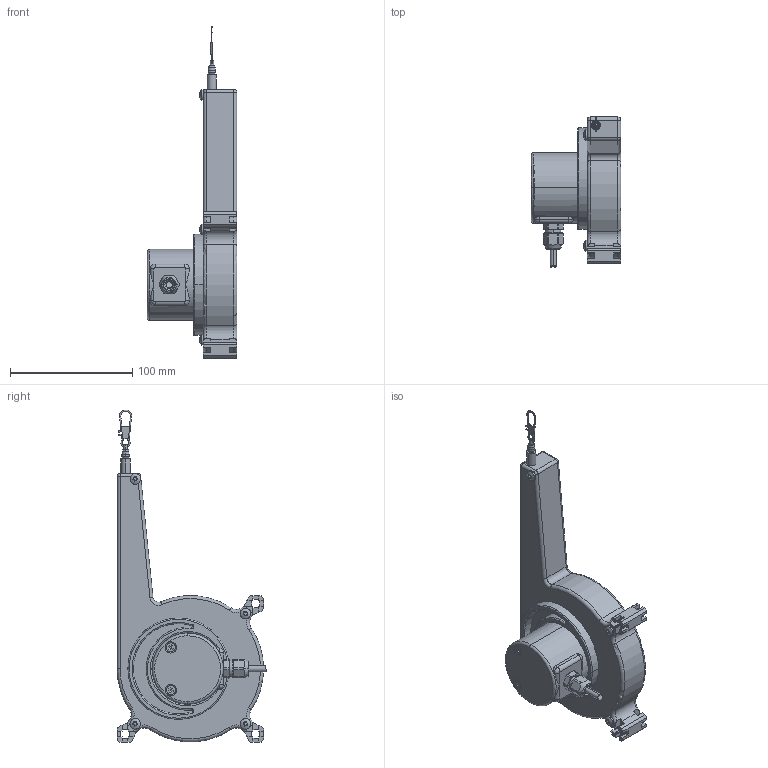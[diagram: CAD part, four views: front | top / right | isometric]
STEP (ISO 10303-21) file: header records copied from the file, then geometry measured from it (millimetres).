
FILE_DESCRIPTION((''),'2;1');
FILE_NAME('','2008-12-02T',(''),(''),'PRO/ENGINEER BY PARAMETRIC TECHNOLOGY CORPORATION, 2003250','PRO/ENGINEER BY PARAMETRIC TECHNOLOGY CORPORATION, 2003250','');
FILE_SCHEMA(('CONFIG_CONTROL_DESIGN'));
Length unit declared in the file: millimetre
Bounding box: 73.5 x 122.64 x 272 mm (x, y, z)
Volume: 206340.2 mm3; surface area: 123360.2 mm2
Topology: 4 solids, 12 shells, 959 faces, 2632 edges, 1730 vertices
Faces by surface type: plane 541, cylinder 248, torus 62, extrusion 48, cone 42, sphere 10, bspline 8
Entity records: 32067 total; most frequent: CARTESIAN_POINT 7359, ORIENTED_EDGE 5252, DIRECTION 5020, EDGE_CURVE 2626, VERTEX_POINT 1730, VECTOR 1692, AXIS2_PLACEMENT_3D 1664, LINE 1644
